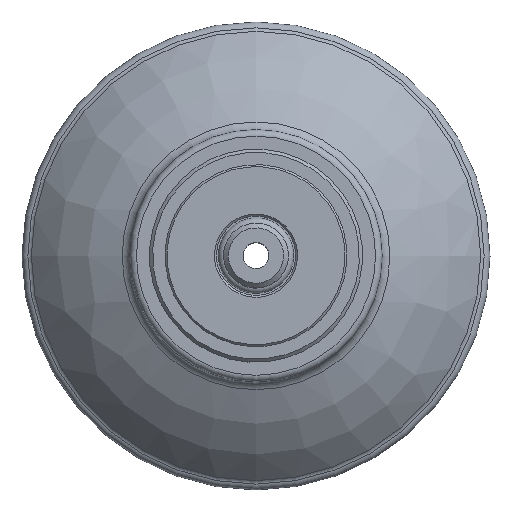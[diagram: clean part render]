
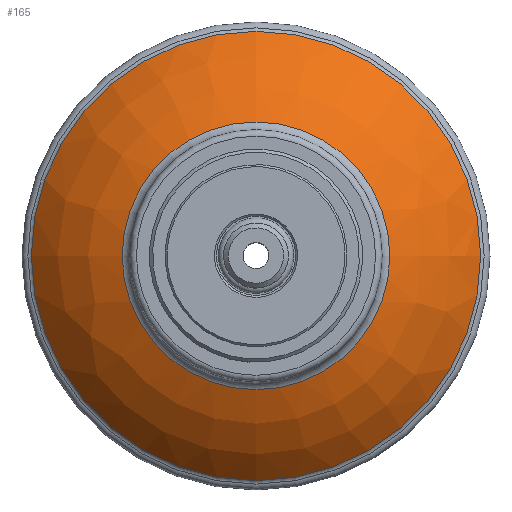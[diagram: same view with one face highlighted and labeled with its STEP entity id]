
A CAD part, top view. The second image highlights one B-rep face of the part: STEP entity #165.
In plain terms, the highlighted free-form (B-spline) face has degree [3, 3] with [4, 7] control points.
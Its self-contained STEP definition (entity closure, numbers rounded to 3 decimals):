
#165 = ADVANCED_FACE( '', ( #377, #378 ), #379, .T. );
#377 = FACE_OUTER_BOUND( '', #676, .T. );
#378 = FACE_OUTER_BOUND( '', #677, .T. );
#379 = ( BOUNDED_SURFACE(  )B_SPLINE_SURFACE( 3, 3, ( ( #680, #681, #682, #683, #684, #685, #686 ), ( #687, #688, #689, #690, #691, #692, #693 ), ( #694, #695, #696, #697, #698, #699, #700 ), ( #701, #702, #703, #704, #705, #706, #707 ) ), .UNSPECIFIED., .F., .T., .F. )B_SPLINE_SURFACE_WITH_KNOTS( ( 4, 4 ), ( 4, 3, 4 ), ( 0., 6.283 ), ( 0.667, 0.936, 1.206 ), .UNSPECIFIED. )GEOMETRIC_REPRESENTATION_ITEM(  )RATIONAL_B_SPLINE_SURFACE( ( ( 1., 0.333, 0.333, 1., 0.333, 0.333, 1. ), ( 0.976, 0.325, 0.325, 0.976, 0.325, 0.325, 0.976 ), ( 0.976, 0.325, 0.325, 0.976, 0.325, 0.325, 0.976 ), ( 1., 0.333, 0.333, 1., 0.333, 0.333, 1. ) ) )REPRESENTATION_ITEM( '' )SURFACE(  ) );
#676 = EDGE_LOOP( '', ( #1110 ) );
#677 = EDGE_LOOP( '', ( #1111 ) );
#680 = CARTESIAN_POINT( '', ( 20.59, 0., -3.808 ) );
#681 = CARTESIAN_POINT( '', ( 20.59, 41.18, -3.808 ) );
#682 = CARTESIAN_POINT( '', ( -20.59, 41.18, -3.808 ) );
#683 = CARTESIAN_POINT( '', ( -20.59, 0., -3.808 ) );
#684 = CARTESIAN_POINT( '', ( -20.59, -41.18, -3.808 ) );
#685 = CARTESIAN_POINT( '', ( 20.59, -41.18, -3.808 ) );
#686 = CARTESIAN_POINT( '', ( 20.59, 0., -3.808 ) );
#687 = CARTESIAN_POINT( '', ( 26.122, 0., -5.922 ) );
#688 = CARTESIAN_POINT( '', ( 26.122, 52.244, -5.922 ) );
#689 = CARTESIAN_POINT( '', ( -26.122, 52.244, -5.922 ) );
#690 = CARTESIAN_POINT( '', ( -26.122, 0., -5.922 ) );
#691 = CARTESIAN_POINT( '', ( -26.122, -52.244, -5.922 ) );
#692 = CARTESIAN_POINT( '', ( 26.122, -52.244, -5.922 ) );
#693 = CARTESIAN_POINT( '', ( 26.122, 0., -5.922 ) );
#694 = CARTESIAN_POINT( '', ( 30.892, 0., -9.432 ) );
#695 = CARTESIAN_POINT( '', ( 30.892, 61.784, -9.432 ) );
#696 = CARTESIAN_POINT( '', ( -30.892, 61.784, -9.432 ) );
#697 = CARTESIAN_POINT( '', ( -30.892, 0., -9.432 ) );
#698 = CARTESIAN_POINT( '', ( -30.892, -61.784, -9.432 ) );
#699 = CARTESIAN_POINT( '', ( 30.892, -61.784, -9.432 ) );
#700 = CARTESIAN_POINT( '', ( 30.892, 0., -9.432 ) );
#701 = CARTESIAN_POINT( '', ( 34.556, 0., -14.085 ) );
#702 = CARTESIAN_POINT( '', ( 34.556, 69.112, -14.085 ) );
#703 = CARTESIAN_POINT( '', ( -34.556, 69.112, -14.085 ) );
#704 = CARTESIAN_POINT( '', ( -34.556, 0., -14.085 ) );
#705 = CARTESIAN_POINT( '', ( -34.556, -69.112, -14.085 ) );
#706 = CARTESIAN_POINT( '', ( 34.556, -69.112, -14.085 ) );
#707 = CARTESIAN_POINT( '', ( 34.556, 0., -14.085 ) );
#1110 = ORIENTED_EDGE( '', *, *, #1439, .F. );
#1111 = ORIENTED_EDGE( '', *, *, #1444, .T. );
#1439 = EDGE_CURVE( '', #1611, #1611, #1612, .T. );
#1444 = EDGE_CURVE( '', #1618, #1618, #1619, .T. );
#1611 = VERTEX_POINT( '', #1819 );
#1612 = CIRCLE( '', #1820, 20.59 );
#1618 = VERTEX_POINT( '', #1826 );
#1619 = CIRCLE( '', #1827, 34.556 );
#1819 = CARTESIAN_POINT( '', ( 20.59, 0., -3.808 ) );
#1820 = AXIS2_PLACEMENT_3D( '', #2040, #2041, #2042 );
#1826 = CARTESIAN_POINT( '', ( 34.556, 0., -14.085 ) );
#1827 = AXIS2_PLACEMENT_3D( '', #2046, #2047, #2048 );
#2040 = CARTESIAN_POINT( '', ( 0., 0., -3.808 ) );
#2041 = DIRECTION( '', ( 0., 0., 1. ) );
#2042 = DIRECTION( '', ( 1., 0., 0. ) );
#2046 = CARTESIAN_POINT( '', ( 0., 0., -14.085 ) );
#2047 = DIRECTION( '', ( 0., 0., 1. ) );
#2048 = DIRECTION( '', ( 1., 0., 0. ) );
